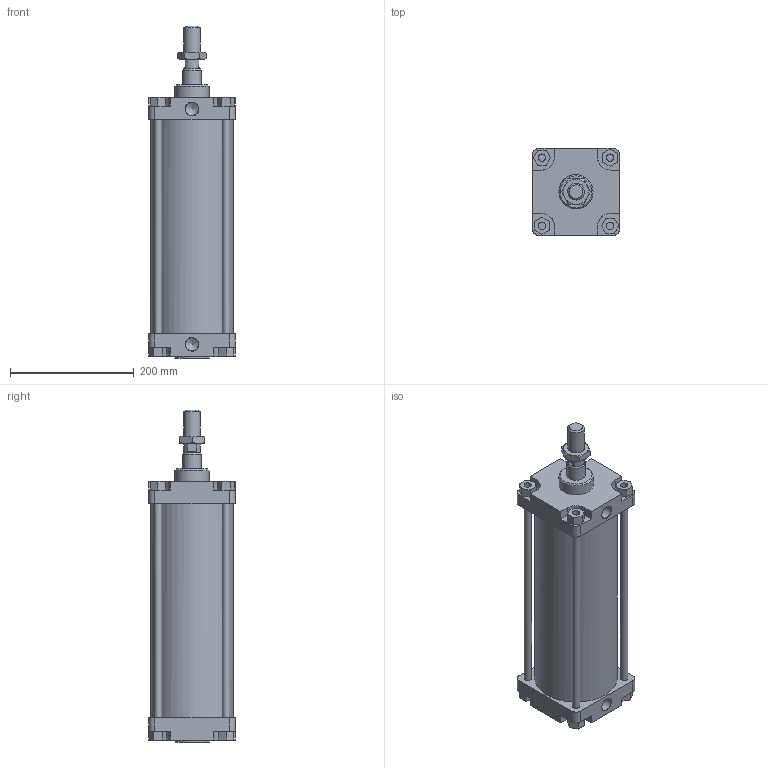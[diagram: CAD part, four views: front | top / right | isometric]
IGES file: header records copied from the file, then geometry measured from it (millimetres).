
Global section: file name: 1305_125_0250_01A; native system: Autodesk Inventor 2014; preprocessor: unknown; author: A. Manieri; date: 20161124.143257; units: millimetre
Bounding box: 140 x 140 x 536 mm (x, y, z)
Volume: 3483834.1 mm3; surface area: 586051.8 mm2
Topology: 9 solids, 9 shells, 175 faces, 440 edges, 295 vertices
Faces by surface type: bspline 175
